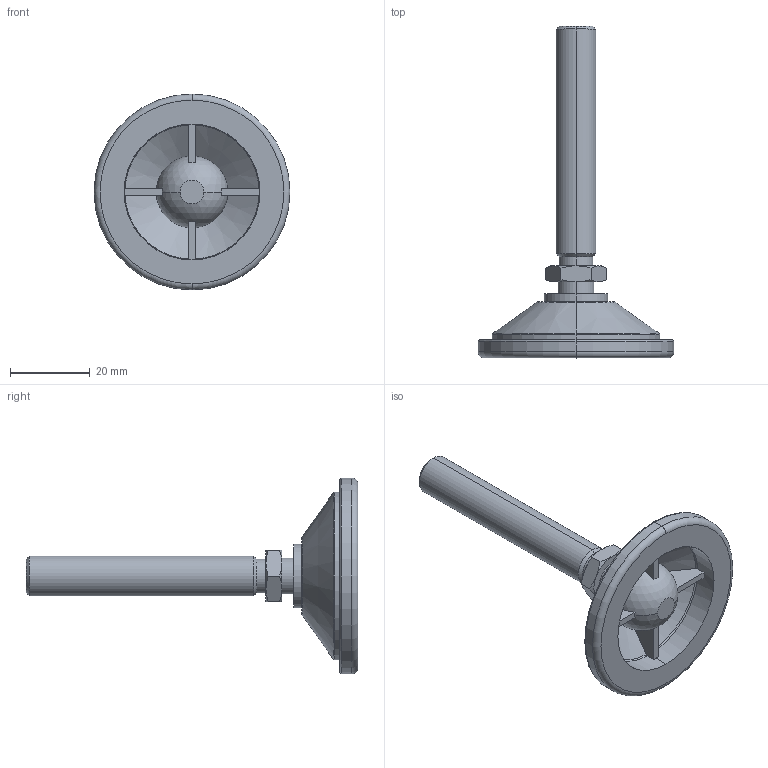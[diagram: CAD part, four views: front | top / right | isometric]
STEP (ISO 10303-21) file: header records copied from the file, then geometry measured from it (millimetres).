
FILE_DESCRIPTION (( 'STEP AP203' ), '1' );
FILE_NAME ('3472.W103.step', '2009-10-21T16:59:07', ( 'Wixroyd' ), ( 'Wixroyd' ), 'SwSTEP 2.0', 'SolidWorks 2009', '' );
FILE_SCHEMA (( 'CONFIG_CONTROL_DESIGN' ));
Length unit declared in the file: millimetre
Products named in the file (3): Part1_3472W103; Part2_3472W103; 3472.W103
Assembly tree (2 placements, depth 2):
  3472.W103
    Part1_3472W103
    Part2_3472W103
Bounding box: 49 x 83 x 49 mm (x, y, z)
Volume: 16139.1 mm3; surface area: 9876.8 mm2
Topology: 2 solids, 2 shells, 94 faces, 229 edges, 143 vertices
Faces by surface type: plane 38, cone 22, cylinder 16, torus 12, sphere 6
Entity records: 3159 total; most frequent: CARTESIAN_POINT 659, DIRECTION 508, ORIENTED_EDGE 442, AXIS2_PLACEMENT_3D 228, EDGE_CURVE 221, VERTEX_POINT 139, CIRCLE 129, EDGE_LOOP 102
